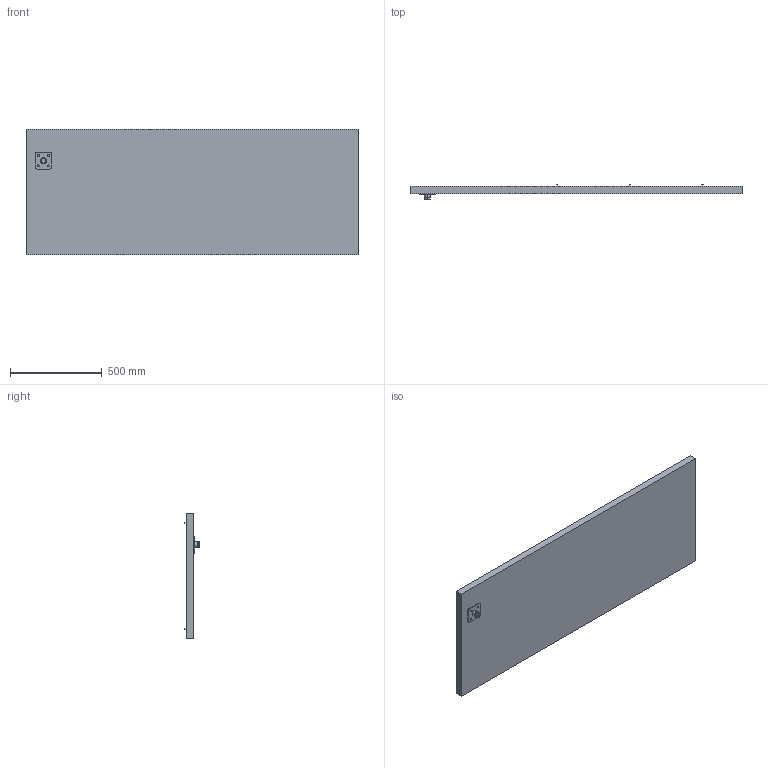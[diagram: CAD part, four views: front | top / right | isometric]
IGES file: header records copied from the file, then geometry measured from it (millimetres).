
Start section: SolidWorks IGES file using analytic representation for surfaces
Global section: file name: P:\Project Planning\Router\Design Correspondence\2021-04-09\24R_T-SLOT_VACUUM_TABLE_RevH.IGS; native system: SolidWorks 2016; preprocessor: SolidWorks 2016; author: rhalvorson; date: 210409.115609; units: millimetre
Bounding box: 1805 x 82 x 680 mm (x, y, z)
Surface area: 3493461.1 mm2 (no closed solid volume)
Topology: 0 solids, 64 shells, 5162 faces, 12110 edges, 7719 vertices
Faces by surface type: plane 3677, revolution 1473, bspline 12
